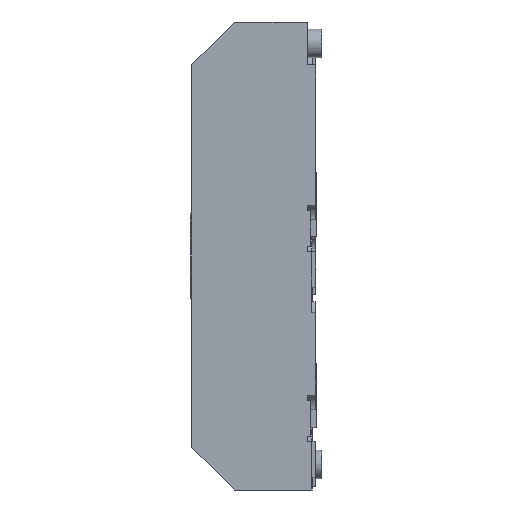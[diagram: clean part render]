
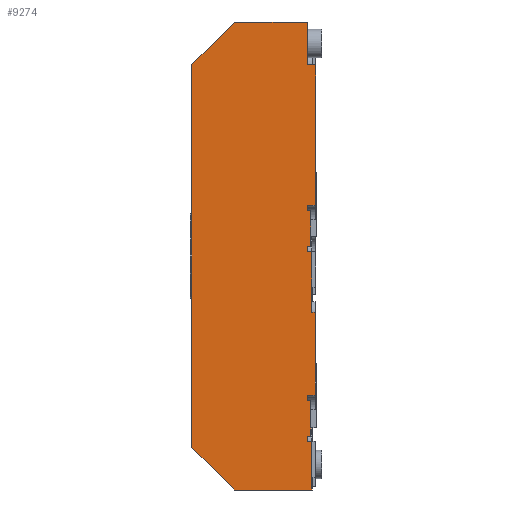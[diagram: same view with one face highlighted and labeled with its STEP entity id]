
A CAD part, left-side view. The second image highlights one B-rep face of the part: STEP entity #9274.
In plain terms, the highlighted planar face has unit normal (-1, 0, 0).
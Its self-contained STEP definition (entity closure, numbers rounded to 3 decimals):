
#1604=DIRECTION('',(0.,0.,-1.));
#1605=VECTOR('',#1604,53.6);
#1606=CARTESIAN_POINT('',(-11.4,17.,22.1));
#1607=LINE('',#1606,#1605);
#1611=DIRECTION('',(0.,0.,-1.));
#1612=VECTOR('',#1611,0.75);
#1613=CARTESIAN_POINT('',(-11.4,0.8,-24.2));
#1614=LINE('',#1613,#1612);
#1618=DIRECTION('',(0.,-1.,0.));
#1619=VECTOR('',#1618,0.5);
#1620=CARTESIAN_POINT('',(-11.4,0.8,-24.95));
#1621=LINE('',#1620,#1619);
#1625=DIRECTION('',(0.,0.,-1.));
#1626=VECTOR('',#1625,0.75);
#1627=CARTESIAN_POINT('',(-11.4,0.8,-29.95));
#1628=LINE('',#1627,#1626);
#1632=DIRECTION('',(0.,0.,-1.));
#1633=VECTOR('',#1632,6.8);
#1634=CARTESIAN_POINT('',(-11.4,0.2,-30.7));
#1635=LINE('',#1634,#1633);
#1639=DIRECTION('',(0.,0.707,0.707));
#1640=VECTOR('',#1639,8.485);
#1641=CARTESIAN_POINT('',(-11.4,11.,-37.5));
#1642=LINE('',#1641,#1640);
#1646=DIRECTION('',(0.,-0.707,0.707));
#1647=VECTOR('',#1646,8.485);
#1648=CARTESIAN_POINT('',(-11.4,17.,22.1));
#1649=LINE('',#1648,#1647);
#1653=DIRECTION('',(0.,-1.,0.));
#1654=VECTOR('',#1653,10.2);
#1655=CARTESIAN_POINT('',(-11.4,11.,28.1));
#1656=LINE('',#1655,#1654);
#1660=DIRECTION('',(0.,1.,0.));
#1661=VECTOR('',#1660,0.1);
#1662=CARTESIAN_POINT('',(-11.4,-0.4,17.1));
#1663=LINE('',#1662,#1661);
#1667=DIRECTION('',(0.,0.,-1.));
#1668=VECTOR('',#1667,14.7);
#1669=CARTESIAN_POINT('',(-11.4,-0.3,17.1));
#1670=LINE('',#1669,#1668);
#1674=DIRECTION('',(0.,0.,-1.));
#1675=VECTOR('',#1674,0.75);
#1676=CARTESIAN_POINT('',(-11.4,0.8,2.4));
#1677=LINE('',#1676,#1675);
#1681=DIRECTION('',(0.,1.,0.));
#1682=VECTOR('',#1681,0.5);
#1683=CARTESIAN_POINT('',(-11.4,0.3,-3.35));
#1684=LINE('',#1683,#1682);
#1688=DIRECTION('',(0.,0.,-1.));
#1689=VECTOR('',#1688,0.75);
#1690=CARTESIAN_POINT('',(-11.4,0.8,-3.35));
#1691=LINE('',#1690,#1689);
#1695=DIRECTION('',(0.,0.,-1.));
#1696=VECTOR('',#1695,8.5);
#1697=CARTESIAN_POINT('',(-11.4,0.2,-4.1));
#1698=LINE('',#1697,#1696);
#1702=DIRECTION('',(0.,0.,-1.));
#1703=VECTOR('',#1702,11.6);
#1704=CARTESIAN_POINT('',(-11.4,-0.3,-12.6));
#1705=LINE('',#1704,#1703);
#1746=DIRECTION('',(0.,-1.,0.));
#1747=VECTOR('',#1746,0.5);
#1748=CARTESIAN_POINT('',(-11.4,0.8,-29.95));
#1749=LINE('',#1748,#1747);
#1753=DIRECTION('',(0.,0.,-1.));
#1754=VECTOR('',#1753,5.);
#1755=CARTESIAN_POINT('',(-11.4,0.3,-24.95));
#1756=LINE('',#1755,#1754);
#1795=DIRECTION('',(0.,-1.,0.));
#1796=VECTOR('',#1795,1.1);
#1797=CARTESIAN_POINT('',(-11.4,0.8,-24.2));
#1798=LINE('',#1797,#1796);
#2075=DIRECTION('',(0.,1.,0.));
#2076=VECTOR('',#2075,0.6);
#2077=CARTESIAN_POINT('',(-11.4,0.2,-30.7));
#2078=LINE('',#2077,#2076);
#2416=DIRECTION('',(0.,1.,0.));
#2417=VECTOR('',#2416,0.6);
#2418=CARTESIAN_POINT('',(-11.4,0.2,-4.1));
#2419=LINE('',#2418,#2417);
#2467=DIRECTION('',(0.,1.,0.));
#2468=VECTOR('',#2467,0.5);
#2469=CARTESIAN_POINT('',(-11.4,0.3,1.65));
#2470=LINE('',#2469,#2468);
#2523=DIRECTION('',(0.,0.,1.));
#2524=VECTOR('',#2523,5.);
#2525=CARTESIAN_POINT('',(-11.4,0.3,-3.35));
#2526=LINE('',#2525,#2524);
#2530=DIRECTION('',(0.,-1.,0.));
#2531=VECTOR('',#2530,1.1);
#2532=CARTESIAN_POINT('',(-11.4,0.8,2.4));
#2533=LINE('',#2532,#2531);
#2602=DIRECTION('',(0.,0.,1.));
#2603=VECTOR('',#2602,5.);
#2604=CARTESIAN_POINT('',(-11.4,-0.4,17.1));
#2605=LINE('',#2604,#2603);
#2623=DIRECTION('',(0.,1.,0.));
#2624=VECTOR('',#2623,1.2);
#2625=CARTESIAN_POINT('',(-11.4,-0.4,22.1));
#2626=LINE('',#2625,#2624);
#2793=DIRECTION('',(0.,0.,1.));
#2794=VECTOR('',#2793,6.);
#2795=CARTESIAN_POINT('',(-11.4,0.8,22.1));
#2796=LINE('',#2795,#2794);
#3249=DIRECTION('',(0.,-1.,0.));
#3250=VECTOR('',#3249,10.8);
#3251=CARTESIAN_POINT('',(-11.4,11.,-37.5));
#3252=LINE('',#3251,#3250);
#5852=DIRECTION('',(0.,1.,0.));
#5853=VECTOR('',#5852,0.5);
#5854=CARTESIAN_POINT('',(-11.4,-0.3,-12.6));
#5855=LINE('',#5854,#5853);
#7285=CARTESIAN_POINT('',(-11.4,11.,28.1));
#7287=VERTEX_POINT('',#7285);
#7351=CARTESIAN_POINT('',(-11.4,0.8,28.1));
#7352=VERTEX_POINT('',#7351);
#7355=CARTESIAN_POINT('',(-11.4,17.,22.1));
#7356=VERTEX_POINT('',#7355);
#7363=CARTESIAN_POINT('',(-11.4,17.,-31.5));
#7364=VERTEX_POINT('',#7363);
#7365=CARTESIAN_POINT('',(-11.4,0.8,2.4));
#7366=CARTESIAN_POINT('',(-11.4,0.8,1.65));
#7367=VERTEX_POINT('',#7365);
#7368=VERTEX_POINT('',#7366);
#7369=CARTESIAN_POINT('',(-11.4,0.3,1.65));
#7370=VERTEX_POINT('',#7369);
#7371=CARTESIAN_POINT('',(-11.4,0.3,-3.35));
#7372=VERTEX_POINT('',#7371);
#7373=CARTESIAN_POINT('',(-11.4,0.8,-3.35));
#7374=VERTEX_POINT('',#7373);
#7375=CARTESIAN_POINT('',(-11.4,0.8,-4.1));
#7376=VERTEX_POINT('',#7375);
#7377=CARTESIAN_POINT('',(-11.4,0.2,-4.1));
#7378=VERTEX_POINT('',#7377);
#7379=CARTESIAN_POINT('',(-11.4,0.2,-12.6));
#7380=VERTEX_POINT('',#7379);
#7381=CARTESIAN_POINT('',(-11.4,-0.3,-12.6));
#7382=VERTEX_POINT('',#7381);
#7383=CARTESIAN_POINT('',(-11.4,-0.3,-24.2));
#7384=VERTEX_POINT('',#7383);
#7385=CARTESIAN_POINT('',(-11.4,0.8,-24.2));
#7386=VERTEX_POINT('',#7385);
#7387=CARTESIAN_POINT('',(-11.4,0.2,-30.7));
#7388=CARTESIAN_POINT('',(-11.4,0.8,-30.7));
#7389=VERTEX_POINT('',#7387);
#7390=VERTEX_POINT('',#7388);
#7391=CARTESIAN_POINT('',(-11.4,0.2,-37.5));
#7392=VERTEX_POINT('',#7391);
#7393=CARTESIAN_POINT('',(-11.4,11.,-37.5));
#7394=VERTEX_POINT('',#7393);
#7395=CARTESIAN_POINT('',(-11.4,0.8,22.1));
#7396=VERTEX_POINT('',#7395);
#7397=CARTESIAN_POINT('',(-11.4,-0.4,22.1));
#7398=VERTEX_POINT('',#7397);
#7399=CARTESIAN_POINT('',(-11.4,-0.4,17.1));
#7400=VERTEX_POINT('',#7399);
#7401=CARTESIAN_POINT('',(-11.4,-0.3,17.1));
#7402=VERTEX_POINT('',#7401);
#7403=CARTESIAN_POINT('',(-11.4,-0.3,2.4));
#7404=VERTEX_POINT('',#7403);
#7906=CARTESIAN_POINT('',(-11.4,0.3,-24.95));
#7907=CARTESIAN_POINT('',(-11.4,0.3,-29.95));
#7908=VERTEX_POINT('',#7906);
#7909=VERTEX_POINT('',#7907);
#7914=CARTESIAN_POINT('',(-11.4,0.8,-29.95));
#7916=VERTEX_POINT('',#7914);
#7920=CARTESIAN_POINT('',(-11.4,0.8,-24.95));
#7921=VERTEX_POINT('',#7920);
#9214=CARTESIAN_POINT('',(-11.4,8.25,-4.7));
#9215=DIRECTION('',(1.,0.,0.));
#9216=DIRECTION('',(0.,1.,0.));
#9217=AXIS2_PLACEMENT_3D('',#9214,#9215,#9216);
#9218=PLANE('',#9217);
#9220=ORIENTED_EDGE('',*,*,#9219,.T.);
#9222=ORIENTED_EDGE('',*,*,#9221,.T.);
#9224=ORIENTED_EDGE('',*,*,#9223,.T.);
#9226=ORIENTED_EDGE('',*,*,#9225,.F.);
#9228=ORIENTED_EDGE('',*,*,#9227,.T.);
#9230=ORIENTED_EDGE('',*,*,#9229,.F.);
#9232=ORIENTED_EDGE('',*,*,#9231,.T.);
#9234=ORIENTED_EDGE('',*,*,#9233,.F.);
#9236=ORIENTED_EDGE('',*,*,#9235,.T.);
#9237=ORIENTED_EDGE('',*,*,#9206,.F.);
#9238=ORIENTED_EDGE('',*,*,#9175,.T.);
#9239=ORIENTED_EDGE('',*,*,#9162,.T.);
#9241=ORIENTED_EDGE('',*,*,#9240,.F.);
#9243=ORIENTED_EDGE('',*,*,#9242,.F.);
#9245=ORIENTED_EDGE('',*,*,#9244,.F.);
#9247=ORIENTED_EDGE('',*,*,#9246,.T.);
#9249=ORIENTED_EDGE('',*,*,#9248,.T.);
#9251=ORIENTED_EDGE('',*,*,#9250,.F.);
#9253=ORIENTED_EDGE('',*,*,#9252,.T.);
#9255=ORIENTED_EDGE('',*,*,#9254,.F.);
#9257=ORIENTED_EDGE('',*,*,#9256,.F.);
#9259=ORIENTED_EDGE('',*,*,#9258,.T.);
#9261=ORIENTED_EDGE('',*,*,#9260,.T.);
#9263=ORIENTED_EDGE('',*,*,#9262,.F.);
#9265=ORIENTED_EDGE('',*,*,#9264,.T.);
#9267=ORIENTED_EDGE('',*,*,#9266,.F.);
#9269=ORIENTED_EDGE('',*,*,#9268,.T.);
#9271=ORIENTED_EDGE('',*,*,#9270,.F.);
#9272=EDGE_LOOP('',(#9220,#9222,#9224,#9226,#9228,#9230,#9232,#9234,#9236,#9237,
#9238,#9239,#9241,#9243,#9245,#9247,#9249,#9251,#9253,#9255,#9257,#9259,#9261,
#9263,#9265,#9267,#9269,#9271));
#9273=FACE_OUTER_BOUND('',#9272,.F.);
#9162=EDGE_CURVE('',#7287,#7352,#1656,.T.);
#9175=EDGE_CURVE('',#7356,#7287,#1649,.T.);
#9206=EDGE_CURVE('',#7356,#7364,#1607,.T.);
#9219=EDGE_CURVE('',#7386,#7921,#1614,.T.);
#9221=EDGE_CURVE('',#7921,#7908,#1621,.T.);
#9223=EDGE_CURVE('',#7908,#7909,#1756,.T.);
#9225=EDGE_CURVE('',#7916,#7909,#1749,.T.);
#9227=EDGE_CURVE('',#7916,#7390,#1628,.T.);
#9229=EDGE_CURVE('',#7389,#7390,#2078,.T.);
#9231=EDGE_CURVE('',#7389,#7392,#1635,.T.);
#9233=EDGE_CURVE('',#7394,#7392,#3252,.T.);
#9235=EDGE_CURVE('',#7394,#7364,#1642,.T.);
#9240=EDGE_CURVE('',#7396,#7352,#2796,.T.);
#9242=EDGE_CURVE('',#7398,#7396,#2626,.T.);
#9244=EDGE_CURVE('',#7400,#7398,#2605,.T.);
#9246=EDGE_CURVE('',#7400,#7402,#1663,.T.);
#9248=EDGE_CURVE('',#7402,#7404,#1670,.T.);
#9250=EDGE_CURVE('',#7367,#7404,#2533,.T.);
#9252=EDGE_CURVE('',#7367,#7368,#1677,.T.);
#9254=EDGE_CURVE('',#7370,#7368,#2470,.T.);
#9256=EDGE_CURVE('',#7372,#7370,#2526,.T.);
#9258=EDGE_CURVE('',#7372,#7374,#1684,.T.);
#9260=EDGE_CURVE('',#7374,#7376,#1691,.T.);
#9262=EDGE_CURVE('',#7378,#7376,#2419,.T.);
#9264=EDGE_CURVE('',#7378,#7380,#1698,.T.);
#9266=EDGE_CURVE('',#7382,#7380,#5855,.T.);
#9268=EDGE_CURVE('',#7382,#7384,#1705,.T.);
#9270=EDGE_CURVE('',#7386,#7384,#1798,.T.);
#9274=ADVANCED_FACE('',(#9273),#9218,.F.);
